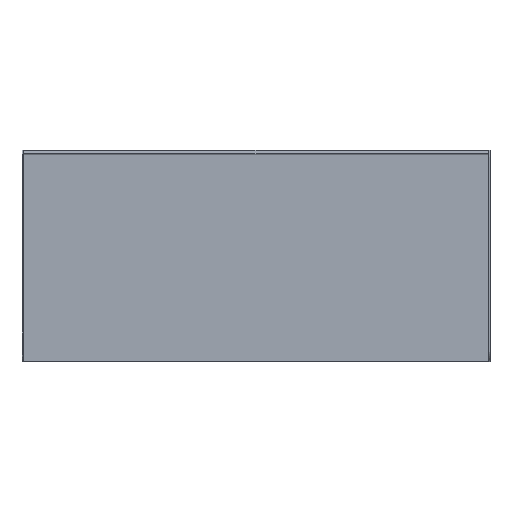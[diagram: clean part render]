
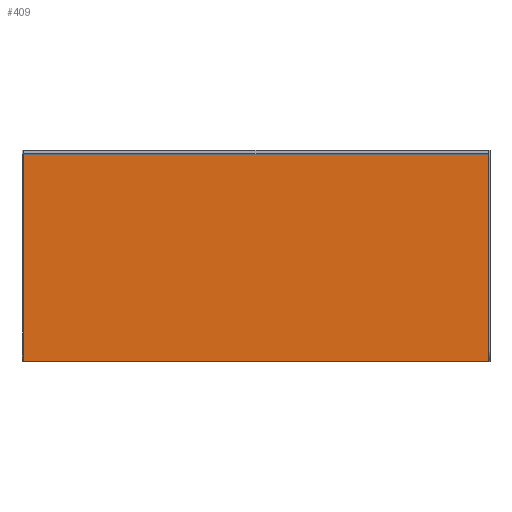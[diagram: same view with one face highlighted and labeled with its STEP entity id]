
A CAD part, front view. The second image highlights one B-rep face of the part: STEP entity #409.
In plain terms, the highlighted planar face has unit normal (0, -1, 0).
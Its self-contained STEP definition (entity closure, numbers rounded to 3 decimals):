
#13 = PLANE ( 'NONE',  #1308 ) ;
#36 = ORIENTED_EDGE ( 'NONE', *, *, #1562, .F. ) ;
#76 = VERTEX_POINT ( 'NONE', #1200 ) ;
#155 = CARTESIAN_POINT ( 'NONE',  ( -547., -15., -247. ) ) ;
#182 = VECTOR ( 'NONE', #1262, 1000. ) ;
#213 = LINE ( 'NONE', #743, #182 ) ;
#348 = CARTESIAN_POINT ( 'NONE',  ( -547., -15., -247. ) ) ;
#357 = CARTESIAN_POINT ( 'NONE',  ( -547., -15., 247. ) ) ;
#391 = DIRECTION ( 'NONE',  ( 0., 0., -1. ) ) ;
#409 = ADVANCED_FACE ( 'NONE', ( #662 ), #13, .T. ) ;
#482 = EDGE_CURVE ( 'NONE', #1144, #1582, #1444, .T. ) ;
#555 = LINE ( 'NONE', #1083, #1276 ) ;
#633 = EDGE_LOOP ( 'NONE', ( #1091, #36, #1515, #1114 ) ) ;
#662 = FACE_OUTER_BOUND ( 'NONE', #633, .T. ) ;
#731 = VECTOR ( 'NONE', #1309, 1000. ) ;
#743 = CARTESIAN_POINT ( 'NONE',  ( -547., -15., 247. ) ) ;
#801 = CARTESIAN_POINT ( 'NONE',  ( -547., -15., 247. ) ) ;
#809 = LINE ( 'NONE', #801, #731 ) ;
#822 = VECTOR ( 'NONE', #1189, 1000. ) ;
#831 = DIRECTION ( 'NONE',  ( 0., -1., 0. ) ) ;
#1083 = CARTESIAN_POINT ( 'NONE',  ( 547., -15., 247. ) ) ;
#1091 = ORIENTED_EDGE ( 'NONE', *, *, #1500, .F. ) ;
#1114 = ORIENTED_EDGE ( 'NONE', *, *, #482, .F. ) ;
#1144 = VERTEX_POINT ( 'NONE', #1693 ) ;
#1152 = VERTEX_POINT ( 'NONE', #357 ) ;
#1189 = DIRECTION ( 'NONE',  ( -1., 0., 0. ) ) ;
#1200 = CARTESIAN_POINT ( 'NONE',  ( 547., -15., 247. ) ) ;
#1262 = DIRECTION ( 'NONE',  ( 0., 0., 1. ) ) ;
#1276 = VECTOR ( 'NONE', #391, 1000. ) ;
#1308 = AXIS2_PLACEMENT_3D ( 'NONE', #1470, #831, #1351 ) ;
#1309 = DIRECTION ( 'NONE',  ( 1., 0., 0. ) ) ;
#1351 = DIRECTION ( 'NONE',  ( 0., 0., -1. ) ) ;
#1355 = EDGE_CURVE ( 'NONE', #1582, #1152, #213, .T. ) ;
#1444 = LINE ( 'NONE', #155, #822 ) ;
#1470 = CARTESIAN_POINT ( 'NONE',  ( 0., -15., 0. ) ) ;
#1500 = EDGE_CURVE ( 'NONE', #76, #1144, #555, .T. ) ;
#1515 = ORIENTED_EDGE ( 'NONE', *, *, #1355, .F. ) ;
#1562 = EDGE_CURVE ( 'NONE', #1152, #76, #809, .T. ) ;
#1582 = VERTEX_POINT ( 'NONE', #348 ) ;
#1693 = CARTESIAN_POINT ( 'NONE',  ( 547., -15., -247. ) ) ;
